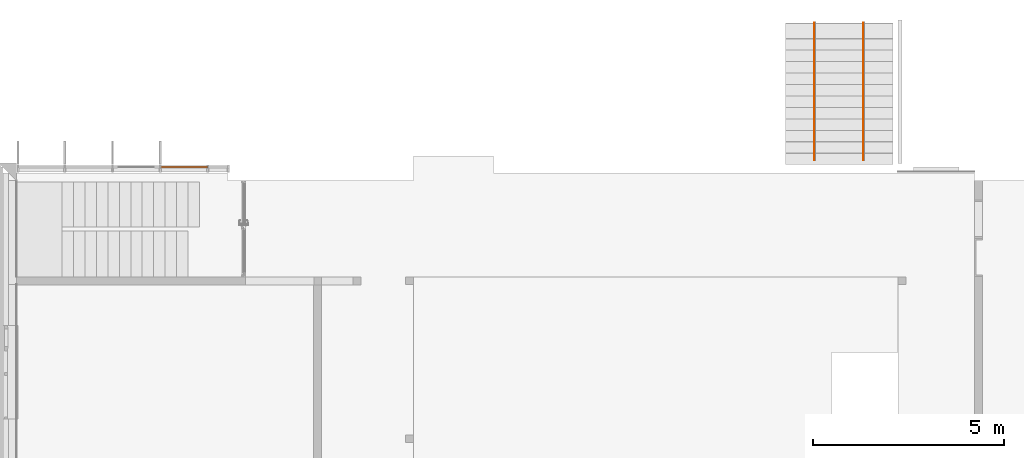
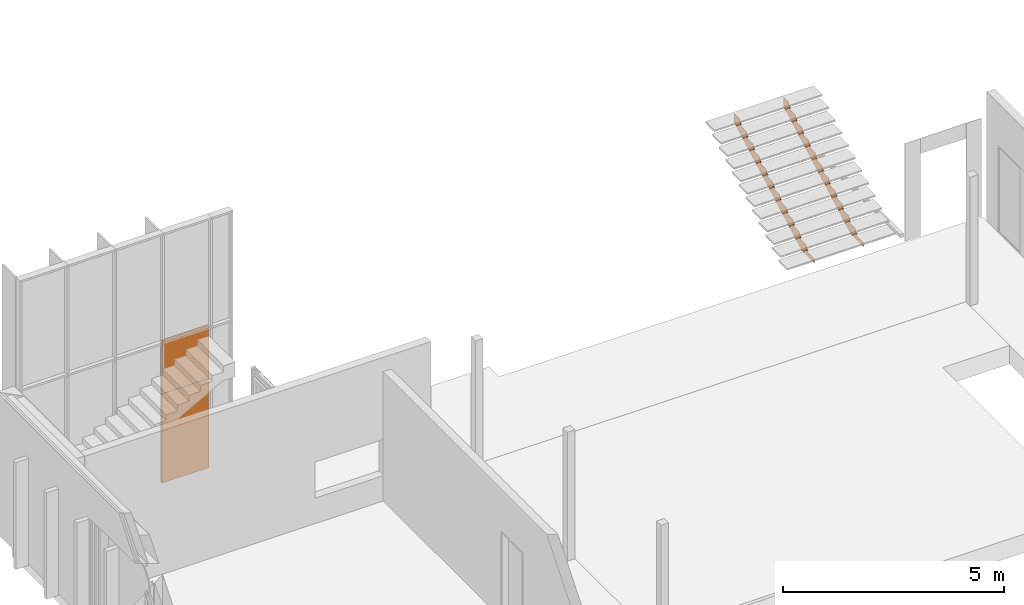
# One storey, part 65 of 65: 4 proxies, 1 element without a shape of its own.
"""IFC2X3 building model written with IfcOpenShell, lengths in millimetres."""

from ifc_helpers import new_model, entity, si_unit, converted_unit, derived_unit, money_unit, direction, frame, origin_with_axes, place, context, subcontext, project, spatial, polyline, outline, extrude, faceted_brep, source, transform, mapped, material, type_object, element, aggregate, save


model = new_model("IFC2X3")

# Units and contexts
model_context = context("Model", 3, precision=0.01, world=origin_with_axes(), true_north=direction((0.0, 1.0)))
body_context = subcontext(model_context, "Body", "Model", "MODEL_VIEW")
ifc_project = project(units=[si_unit("LENGTHUNIT", "METRE", prefix="MILLI"), si_unit("AREAUNIT", "SQUARE_METRE"), si_unit("VOLUMEUNIT", "CUBIC_METRE"), converted_unit("PLANEANGLEUNIT", "DEGREE", entity("IfcPlaneAngleMeasure", 0.0174532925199), si_unit("PLANEANGLEUNIT", "RADIAN"), dimensions=[0, 0, 0, 0, 0, 0, 0]), si_unit("SOLIDANGLEUNIT", "STERADIAN"), money_unit("EUR"), converted_unit("TIMEUNIT", "Year", entity("IfcTimeMeasure", 31556926.0), si_unit("TIMEUNIT", "SECOND"), dimensions=[0, 0, 1, 0, 0, 0, 0]), si_unit("MASSUNIT", "GRAM", prefix="KILO"), si_unit("THERMODYNAMICTEMPERATUREUNIT", "DEGREE_CELSIUS"), si_unit("LUMINOUSINTENSITYUNIT", "LUMEN"), si_unit("ENERGYUNIT", "JOULE", prefix="MEGA"), derived_unit("THERMALCONDUCTANCEUNIT", [(si_unit("POWERUNIT", "WATT"), 1), (si_unit("LENGTHUNIT", "METRE"), -1), (si_unit("THERMODYNAMICTEMPERATUREUNIT", "KELVIN"), -1)]), derived_unit("SPECIFICHEATCAPACITYUNIT", [(si_unit("ENERGYUNIT", "JOULE"), 1), (si_unit("MASSUNIT", "GRAM", prefix="KILO"), -1), (si_unit("THERMODYNAMICTEMPERATUREUNIT", "KELVIN"), -1)]), derived_unit("MASSDENSITYUNIT", [(si_unit("MASSUNIT", "GRAM", prefix="KILO"), 1), (si_unit("VOLUMEUNIT", "CUBIC_METRE"), -1)])], contexts=[model_context])

# Site, building, storey
site_placement = place(None, origin_with_axes())
site = spatial("IfcSite", under=ifc_project, at=site_placement, Name="Puškini 31, Narva", CompositionType="ELEMENT")
building_placement = place(site_placement, origin_with_axes())
building = spatial("IfcBuilding", under=site, at=building_placement, Name="Narva Riigigümnaasium", CompositionType="ELEMENT")
storey_placement = place(building_placement, frame((0.0, 0.0, -1320.0), z_axis=(0.0, 0.0, 1.0), x_axis=(1.0, 0.0, 0.0)))
storey = spatial("IfcBuildingStorey", under=building, at=storey_placement, Name="1.korrus -1.32", CompositionType="ELEMENT", Elevation=-1320.0)

# Proxies
ifc_material_1 = material(Name="ET-03_Raud")
building_element_proxy_type_1 = type_object("IfcBuildingElementProxyType", Name="ET-03_Raud", PredefinedType="NOTDEFINED")
shared_shape = source(origin_with_axes(), body_context, "Body", "Brep", [
    faceted_brep([(-0.846749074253, 275.261336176, 0.0), (541.97593537, 275.261336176, 9.17174509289), (541.97593537, 275.261336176, 10.0), (-0.846753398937, 275.261336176, 10.0), (541.97593537, 275.261336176, 7.0081391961), (541.97593537, 275.261336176, 0.0), (3599.15325093, 1956.70883758, 0.0), (3599.15325093, 1956.70883758, 10.0), (3599.15325093, 2202.78919929, 10.0), (3360.24051674, 2202.78919929, 10.0), (3277.74048021, 2037.78922755, 10.0), (3060.24050507, 2037.78922755, 10.0), (2977.74046853, 1872.78920514, 10.0), (2760.24044292, 1872.78920514, 10.0), (2677.74045705, 1707.78918274, 10.0), (2460.24045662, 1707.78918274, 10.0), (2377.74047078, 1542.78921105, 10.0), (2160.24057119, 1542.78926173, 10.0), (2077.74048396, 1377.78923925, 10.0), (1860.2404089, 1377.78923925, 10.0), (1777.74047369, 1212.78921684, 10.0), (1560.24039683, 1212.78921684, 10.0), (1477.74046163, 1047.78919443, 10.0), (1260.24038566, 1047.78919443, 10.0), (1177.74045045, 882.789172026, 10.0), (960.240498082, 882.789172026, 10.0), (877.740461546, 717.789200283, 10.0), (660.240488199, 717.789200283, 10.0), (577.740451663, 552.789177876, 10.0), (360.24045144, 552.789177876, 10.0), (277.740465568, 387.789206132, 10.0), (-0.84676257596, 387.789206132, 10.0), (-0.846762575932, 387.789206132, 0.0), (277.740465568, 387.789206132, 0.0), (360.24045144, 552.789177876, 0.0), (577.740451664, 552.789177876, 0.0), (660.240488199, 717.789200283, 0.0), (877.740461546, 717.789200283, 0.0), (960.240498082, 882.789172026, 0.0), (1177.74045045, 882.789172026, 0.0), (1260.24038566, 1047.78919443, 0.0), (1477.74046163, 1047.78919443, 0.0), (1560.24039683, 1212.78921684, 0.0), (1777.74047369, 1212.78921684, 0.0), (1860.2404089, 1377.78923925, 0.0), (2077.74048396, 1377.78923925, 0.0), (2160.24057119, 1542.78926173, 0.0), (2377.74047078, 1542.78921105, 0.0), (2460.24045662, 1707.78918274, 0.0), (2677.74045705, 1707.78918274, 0.0), (2760.24044292, 1872.78920514, 0.0), (2977.74046853, 1872.78920514, 0.0), (3060.24050507, 2037.78922755, 0.0), (3277.74048021, 2037.78922755, 0.0), (3360.24051674, 2202.78919929, 0.0), (3599.15325093, 2202.78919929, 0.0)], [[[0, 1, 2, 3]], [[0, 4, 1]], [[4, 5, 6, 7, 2, 1]], [[3, 2, 7, 8, 9, 10, 11, 12, 13, 14, 15, 16, 17, 18, 19, 20, 21, 22, 23, 24, 25, 26, 27, 28, 29, 30, 31]], [[32, 0, 3, 31]], [[0, 5, 4]], [[0, 32, 33, 34, 35, 36, 37, 38, 39, 40, 41, 42, 43, 44, 45, 46, 47, 48, 49, 50, 51, 52, 53, 54, 55, 6, 5]], [[7, 6, 55, 8]], [[55, 54, 9, 8]], [[53, 10, 9, 54]], [[53, 52, 11, 10]], [[51, 12, 11, 52]], [[51, 50, 13, 12]], [[49, 14, 13, 50]], [[49, 48, 15, 14]], [[47, 16, 15, 48]], [[47, 46, 17, 16]], [[45, 18, 17, 46]], [[45, 44, 19, 18]], [[44, 43, 20, 19]], [[43, 42, 21, 20]], [[42, 41, 22, 21]], [[41, 40, 23, 22]], [[40, 39, 24, 23]], [[39, 38, 25, 24]], [[38, 37, 26, 25]], [[37, 36, 27, 26]], [[36, 35, 28, 27]], [[35, 34, 29, 28]], [[34, 33, 30, 29]], [[33, 32, 31, 30]]]),
])
for number, where, z_axis, x_axis in (
    (1, (43299.0, 195229.318076, -275.261336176), (1.0, 0.0, 0.0), (0.0, 1.0, 0.0)),
    (2, (44581.0, 195229.318076, -275.261336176), (1.0, 0.0, 0.0), (0.0, 1.0, 0.0)),
):
    element("IfcBuildingElementProxy", number, at=place(storey_placement, frame(where, z_axis=z_axis, x_axis=x_axis)), inside=storey, type_object=building_element_proxy_type_1, material=ifc_material_1, Name="Trepitala", context=body_context, shape_type="MappedRepresentation", body=[
        mapped(shared_shape, transform((0.0, 0.0, 0.0))),
    ])

# Curtain wall, proxies
curtain_wall_type = type_object("IfcCurtainWallType", Name="Curtain Wall Type", PredefinedType="NOTDEFINED")
curtain_wall_placement = place(storey_placement, frame((23044.9999985, 195055.000005, -0.000275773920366), z_axis=(0.0, 0.0, 1.0), x_axis=(1.0, 0.0, 0.0)))
curtain_wall = element("IfcCurtainWall", 3, at=curtain_wall_placement, inside=storey, type_object=curtain_wall_type, Name="G-KLF-04")
ifc_material_2 = material(Name="VKR-05_Klaas")
building_element_proxy_type_2 = type_object("IfcBuildingElementProxyType", Name="1215 x 10 x 58", PredefinedType="NOTDEFINED")
proxy_1_placement = place(curtain_wall_placement, frame((3629.99999715, 0.0, 1500.00021104), z_axis=(0.0, 0.0, 1.0), x_axis=(-1.0, 0.0, 0.0)))
proxy_1 = element("IfcBuildingElementProxy", 4, at=proxy_1_placement, type_object=building_element_proxy_type_2, material=ifc_material_2, Name="RF PEAPANEEL-855", context=body_context, shape_type="SweptSolid", body=[
    extrude(outline(polyline([(-735.000011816, -1000.00024266), (480.00002987, -1000.00009365), (479.999992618, -990.000099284), (495.00000279, -990.000099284), (495.00000279, 1465.00021214), (-735.000011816, 1465.00021214), (-735.000011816, -1000.00024266)])), frame((0.0, -29.0, 0.0), z_axis=(0.0, 1.0, 0.0), x_axis=(1.0, 0.0, 0.0)), (0.0, 0.0, 1.0), 58.0),
])
building_element_proxy_type_3 = type_object("IfcBuildingElementProxyType", Name="1230 x 1440 x 58", PredefinedType="NOTDEFINED")
proxy_2_placement = place(curtain_wall_placement, frame((3629.99999715, 0.0, 3084.00022154), z_axis=(0.0, 0.0, 1.0), x_axis=(-1.0, 0.0, 0.0)))
proxy_2 = element("IfcBuildingElementProxy", 5, at=proxy_2_placement, type_object=building_element_proxy_type_3, material=ifc_material_2, Name="RF PEAPANEEL-855", context=body_context, shape_type="SweptSolid", body=[
    extrude(outline(polyline([(-735.00000883, -865.999813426), (495.000005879, -865.999813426), (495.000005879, 573.999931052), (480.000008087, 573.999909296), (480.000008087, 583.999922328), (-735.00000883, 583.999770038), (-735.00000883, -865.999813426)])), frame((0.0, -29.0, 0.0), z_axis=(0.0, 1.0, 0.0), x_axis=(1.0, 0.0, 0.0)), (0.0, 0.0, 1.0), 58.0),
])
aggregate(curtain_wall, [proxy_1, proxy_2])

save(model, "model.ifc")
